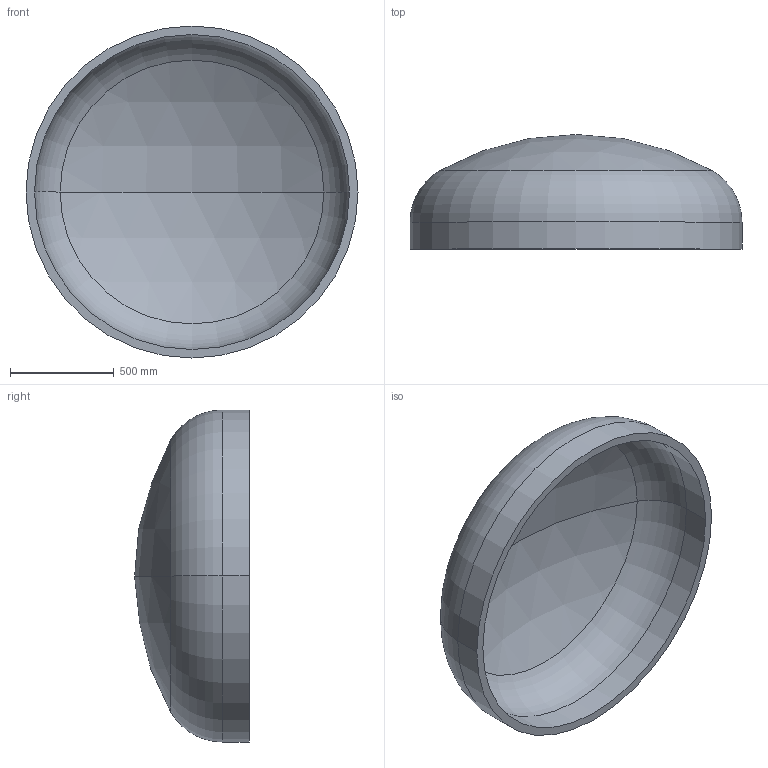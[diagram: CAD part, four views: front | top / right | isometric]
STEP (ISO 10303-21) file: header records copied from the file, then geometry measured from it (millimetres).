
FILE_DESCRIPTION (( 'STEP AP203' ), '1' );
FILE_NAME ('DIN 28013 Korbbogenform_-_Boden DIN 28013 - 1600 x 130 - I - s=41.step', '2016-07-01T11:16:00', ( '' ), ( '' ), 'SwSTEP 2.0', 'SolidWorks 2013', '' );
FILE_SCHEMA (( 'CONFIG_CONTROL_DESIGN' ));
Length unit declared in the file: millimetre
Products named in the file (1): DIN 28013 Korbbogenform_-_Boden DIN 28013 - 1600 x 130 - I - s=41
Bounding box: 1600 x 552.65 x 1600 mm (x, y, z)
Volume: 136379684.5 mm3; surface area: 6856993.7 mm2
Topology: 1 solids, 1 shells, 13 faces, 24 edges, 14 vertices
Faces by surface type: torus 4, cylinder 4, sphere 4, plane 1
Entity records: 407 total; most frequent: DIRECTION 72, CARTESIAN_POINT 52, ORIENTED_EDGE 48, AXIS2_PLACEMENT_3D 34, EDGE_CURVE 24, CIRCLE 20, VERTEX_POINT 14, EDGE_LOOP 14
